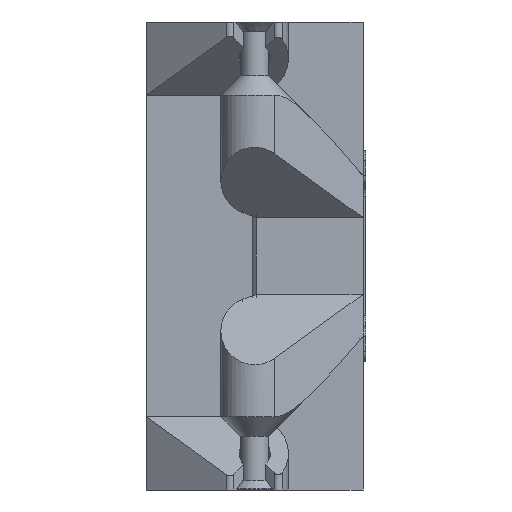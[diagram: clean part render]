
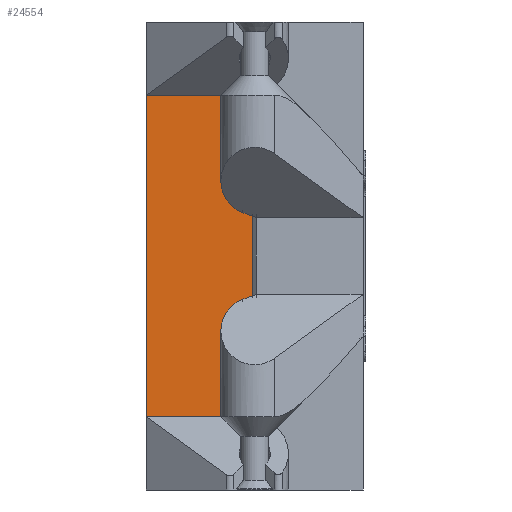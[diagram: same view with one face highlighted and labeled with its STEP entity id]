
A CAD part, left-side view. The second image highlights one B-rep face of the part: STEP entity #24554.
In plain terms, the highlighted planar face has unit normal (-1, 0, 0) as drawn and (0, 0, -1) by its records, which use the part's own axes.
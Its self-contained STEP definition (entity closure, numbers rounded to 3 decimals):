
#1449=PLANE('',#26255);
#2501=FACE_OUTER_BOUND('',#3857,.T.);
#3857=EDGE_LOOP('',(#19597,#19598,#19599,#19600));
#5853=LINE('',#38561,#8572);
#5857=LINE('',#38571,#8576);
#5858=LINE('',#38573,#8577);
#5859=LINE('',#38574,#8578);
#8572=VECTOR('',#30579,10.);
#8576=VECTOR('',#30591,10.);
#8577=VECTOR('',#30592,10.);
#8578=VECTOR('',#30593,10.);
#11486=VERTEX_POINT('',#38556);
#11487=VERTEX_POINT('',#38560);
#11489=VERTEX_POINT('',#38570);
#11490=VERTEX_POINT('',#38572);
#14401=EDGE_CURVE('',#11487,#11486,#5853,.T.);
#14406=EDGE_CURVE('',#11489,#11486,#5857,.T.);
#14407=EDGE_CURVE('',#11489,#11490,#5858,.T.);
#14408=EDGE_CURVE('',#11490,#11487,#5859,.F.);
#19597=ORIENTED_EDGE('',*,*,#14401,.T.);
#19598=ORIENTED_EDGE('',*,*,#14406,.F.);
#19599=ORIENTED_EDGE('',*,*,#14407,.T.);
#19600=ORIENTED_EDGE('',*,*,#14408,.T.);
#24554=ADVANCED_FACE('',(#2501),#1449,.T.);
#26255=AXIS2_PLACEMENT_3D('',#38569,#30589,#30590);
#30579=DIRECTION('',(0.,1.,0.));
#30589=DIRECTION('center_axis',(0.,0.,-1.));
#30590=DIRECTION('ref_axis',(0.,-1.,0.));
#30591=DIRECTION('',(-1.,0.,0.));
#30592=DIRECTION('',(0.,-1.,0.));
#30593=DIRECTION('',(1.,0.,0.));
#38556=CARTESIAN_POINT('',(-30.239,8.5,-11.5));
#38560=CARTESIAN_POINT('',(-30.239,-10.466,-11.5));
#38561=CARTESIAN_POINT('',(-30.239,8.5,-11.5));
#38569=CARTESIAN_POINT('Origin',(39.861,8.5,-11.5));
#38570=CARTESIAN_POINT('',(26.861,8.5,-11.5));
#38571=CARTESIAN_POINT('',(39.861,8.5,-11.5));
#38572=CARTESIAN_POINT('',(26.861,-10.466,-11.5));
#38573=CARTESIAN_POINT('',(26.861,8.5,-11.5));
#38574=CARTESIAN_POINT('',(39.861,-10.466,-11.5));
